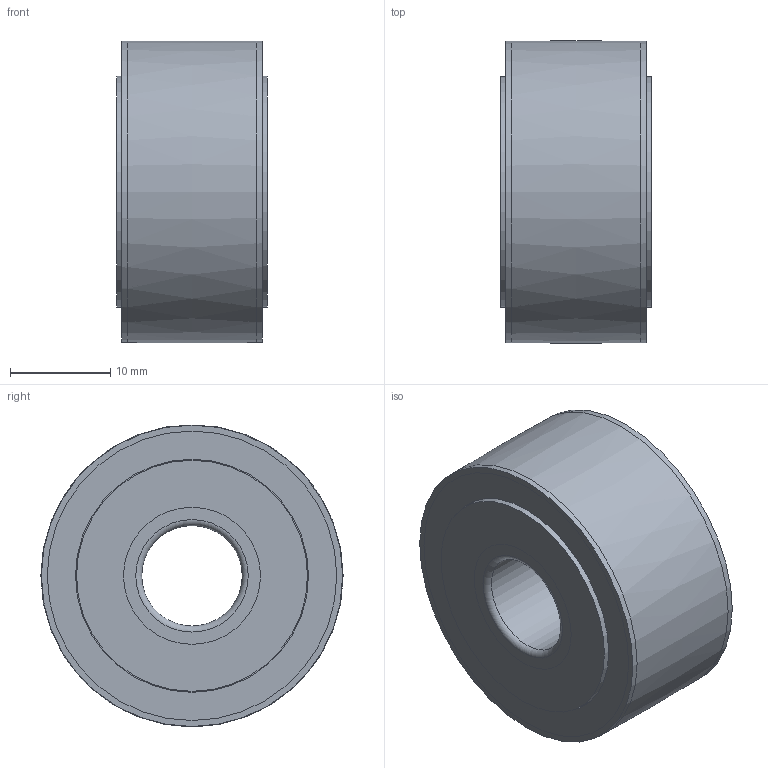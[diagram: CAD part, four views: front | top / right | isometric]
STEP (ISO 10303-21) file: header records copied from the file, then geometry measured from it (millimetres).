
FILE_DESCRIPTION(/* description */ (''),/* implementation_level */ '2;1');
FILE_NAME(/* name */ 'C:\Users\OUREHANEKD\NATV\NATV--\NATV10.stp',/* time_stamp */ '2018-06-05T13:11:11+02:00',/* author */ ('OUREHANEKD'),/* organization */ (''),/* preprocessor_version */ 'ST-DEVELOPER v16.13',/* originating_system */ 'Autodesk Inventor 2018',/* authorisation */ '');
FILE_SCHEMA (('AUTOMOTIVE_DESIGN { 1 0 10303 214 3 1 1 }'));
Length unit declared in the file: millimetre
Products named in the file (5): NATV10; NATV10-01; NATV10-needle; NATV10-shield; NATV10-02
Assembly tree (43 placements, depth 2):
  NATV10
    NATV10-01
    NATV10-needle  x40
    NATV10-shield
    NATV10-02
Bounding box: 15 x 30.1 x 30.06 mm (x, y, z)
Surface area: 10360.9 mm2
Topology: 45 solids, 45 shells, 156 faces, 180 edges, 120 vertices
Faces by surface type: plane 96, cylinder 54, torus 4, bspline 2
Full cylindrical faces by diameter (mm): 1.008 x40, 10 x1, 13.64 x4, 15.04 x1, 17.056 x2, 23 x2, 23.2 x4
Entity records: 1375 total; most frequent: DIRECTION 254, CARTESIAN_POINT 229, AXIS2_PLACEMENT_3D 127, ORIENTED_EDGE 88, EDGE_LOOP 74, PRODUCT_DEFINITION_SHAPE 48, EDGE_CURVE 44, ITEM_DEFINED_TRANSFORMATION 43
